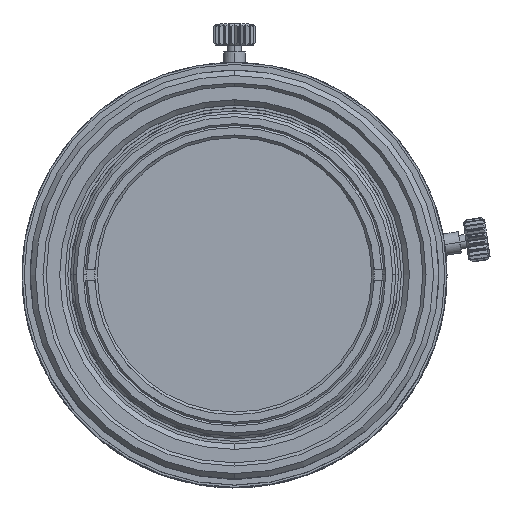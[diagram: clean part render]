
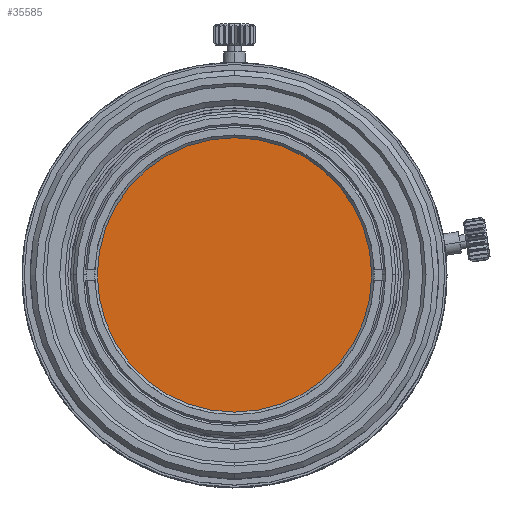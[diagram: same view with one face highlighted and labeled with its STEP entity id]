
A CAD part, top view. The second image highlights one B-rep face of the part: STEP entity #35585.
In plain terms, the highlighted planar face has unit normal (0, 0, 1).
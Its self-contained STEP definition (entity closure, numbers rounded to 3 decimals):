
#749 = CARTESIAN_POINT ( 'NONE',  ( -12.75, 0., 56.028 ) ) ;
#910 = AXIS2_PLACEMENT_3D ( 'NONE', #25175, #58906, #30048 ) ;
#1291 = ORIENTED_EDGE ( 'NONE', *, *, #15519, .F. ) ;
#1561 = DIRECTION ( 'NONE',  ( 1., 0., 0. ) ) ;
#5072 = CIRCLE ( 'NONE', #910, 12.75 ) ;
#7633 = AXIS2_PLACEMENT_3D ( 'NONE', #53262, #24343, #58086 ) ;
#10385 = EDGE_CURVE ( 'NONE', #57064, #17162, #44583, .T. ) ;
#15519 = EDGE_CURVE ( 'NONE', #17162, #57064, #5072, .T. ) ;
#16071 = FACE_OUTER_BOUND ( 'NONE', #37540, .T. ) ;
#17162 = VERTEX_POINT ( 'NONE', #749 ) ;
#20753 = CARTESIAN_POINT ( 'NONE',  ( 0., 12.853, 56.028 ) ) ;
#24343 = DIRECTION ( 'NONE',  ( 0., 0., -1. ) ) ;
#25175 = CARTESIAN_POINT ( 'NONE',  ( 0., 0., 56.028 ) ) ;
#29500 = DIRECTION ( 'NONE',  ( 0., 0., 1. ) ) ;
#30048 = DIRECTION ( 'NONE',  ( -1., 0., 0. ) ) ;
#35278 = CARTESIAN_POINT ( 'NONE',  ( 12.75, 0., 56.028 ) ) ;
#35585 = ADVANCED_FACE ( 'NONE', ( #16071 ), #59390, .T. ) ;
#35714 = AXIS2_PLACEMENT_3D ( 'NONE', #20753, #29500, #1561 ) ;
#37540 = EDGE_LOOP ( 'NONE', ( #1291, #62413 ) ) ;
#44583 = CIRCLE ( 'NONE', #7633, 12.75 ) ;
#53262 = CARTESIAN_POINT ( 'NONE',  ( 0., 0., 56.028 ) ) ;
#57064 = VERTEX_POINT ( 'NONE', #35278 ) ;
#58086 = DIRECTION ( 'NONE',  ( -1., 0., 0. ) ) ;
#58906 = DIRECTION ( 'NONE',  ( 0., 0., -1. ) ) ;
#59390 = PLANE ( 'NONE',  #35714 ) ;
#62413 = ORIENTED_EDGE ( 'NONE', *, *, #10385, .F. ) ;
